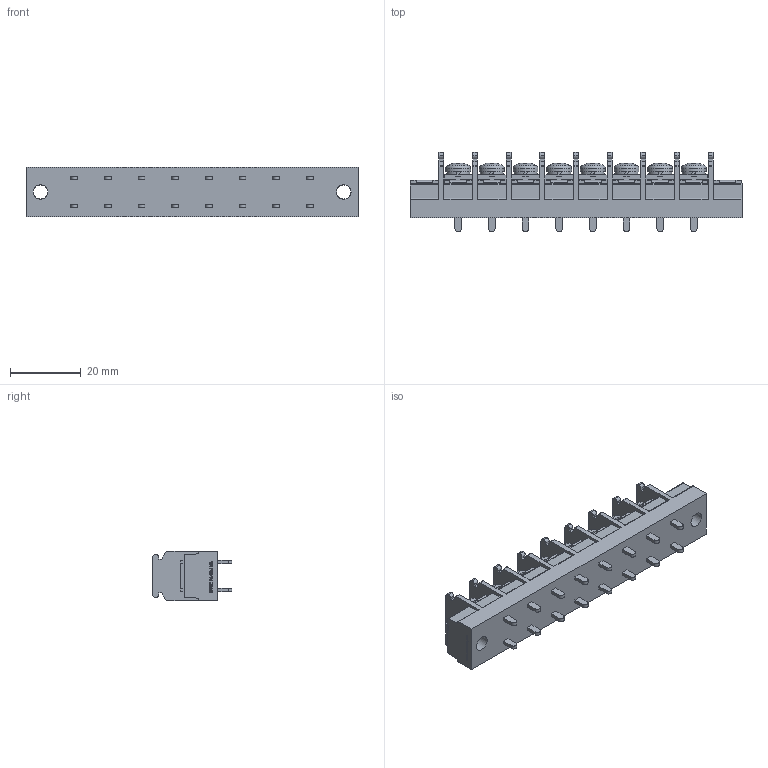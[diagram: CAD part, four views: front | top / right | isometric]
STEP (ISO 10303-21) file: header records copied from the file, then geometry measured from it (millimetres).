
FILE_DESCRIPTION(/* description */ ('Alibre Inc.'),/* implementation_level */ '2;1');
FILE_NAME(/* name */ 'export-A0D33014-BD52-4E01-9277-18D60FABF10F',/* time_stamp */ '2021-02-13T17:11:43+09:00',/* author */ (''),/* organization */ (''),/* preprocessor_version */ 'ST-DEVELOPER v17',/* originating_system */ 'Alibre',/* authorisation */ '');
FILE_SCHEMA (('CONFIG_CONTROL_DESIGN'));
Length unit declared in the file: millimetre
Bounding box: 93.7 x 22.5 x 14 mm (x, y, z)
Volume: 15157.2 mm3; surface area: 10272.2 mm2
Topology: 1 solids, 25 shells, 1422 faces, 3966 edges, 2610 vertices
Faces by surface type: plane 1062, cylinder 192, bspline 104, cone 40, torus 16, sphere 8
Full cylindrical faces by diameter (mm): 4 x18, 4.2 x2, 7 x8
Entity records: 43311 total; most frequent: CARTESIAN_POINT 8894, ORIENTED_EDGE 7792, DIRECTION 5630, EDGE_CURVE 3896, VECTOR 2844, LINE 2844, VERTEX_POINT 2592, AXIS2_PLACEMENT_3D 1890
